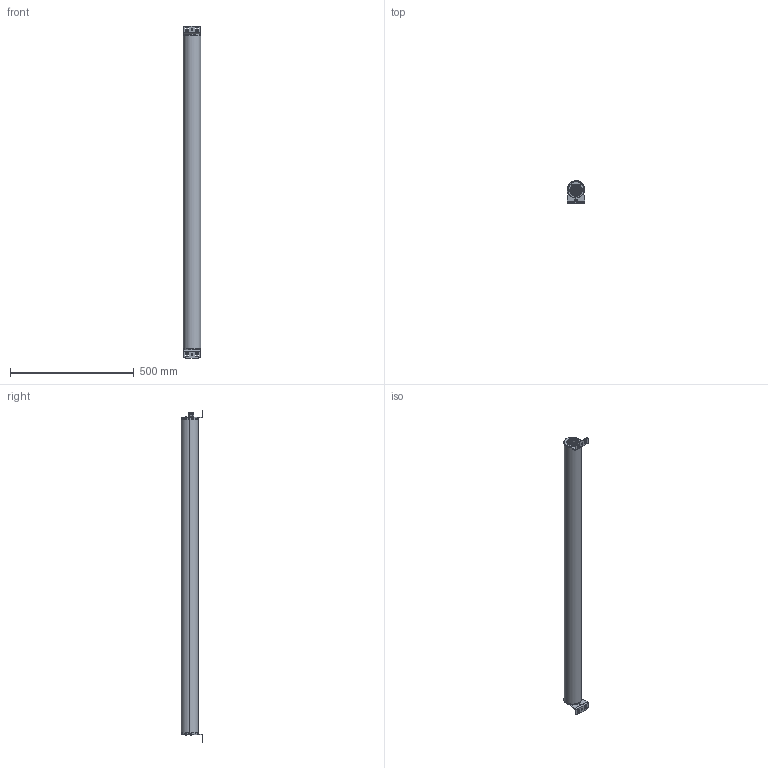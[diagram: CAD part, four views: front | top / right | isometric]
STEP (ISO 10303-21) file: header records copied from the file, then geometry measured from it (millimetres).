
FILE_DESCRIPTION((''),'2;1');
FILE_NAME('2009404_ASM','2020-12-04T13:54:24',('j.rink'),(''),'CREO PARAMETRIC BY PTC INC, 2019292','CREO PARAMETRIC BY PTC INC, 2019292','');
FILE_SCHEMA(('AUTOMOTIVE_DESIGN { 1 0 10303 214 1 1 1 1 }'));
Length unit declared in the file: millimetre
Products named in the file (5): 2009381; 2009383; 2009403; 2009384; 2009404_ASM
Assembly tree (5 placements, depth 2):
  2009404_ASM
    2009381  x2
    2009383
    2009403
    2009384
Bounding box: 70.98 x 88.92 x 1342.5 mm (x, y, z)
Volume: 1074415.6 mm3; surface area: 658195 mm2
Topology: 3 solids, 17 shells, 1290 faces, 3200 edges, 2062 vertices
Faces by surface type: plane 579, extrusion 254, cylinder 160, bspline 109, torus 94, cone 80, revolution 12, sphere 2
Entity records: 68195 total; most frequent: CARTESIAN_POINT 28152, ORIENTED_EDGE 5716, DIRECTION 4591, PRESENTATION_STYLE_ASSIGNMENT 3574, STYLED_ITEM 3049, CURVE_STYLE 3035, EDGE_CURVE 2887, VERTEX_POINT 1822
